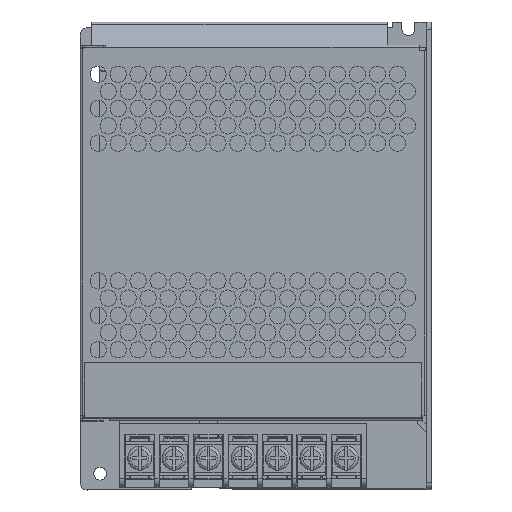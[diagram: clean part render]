
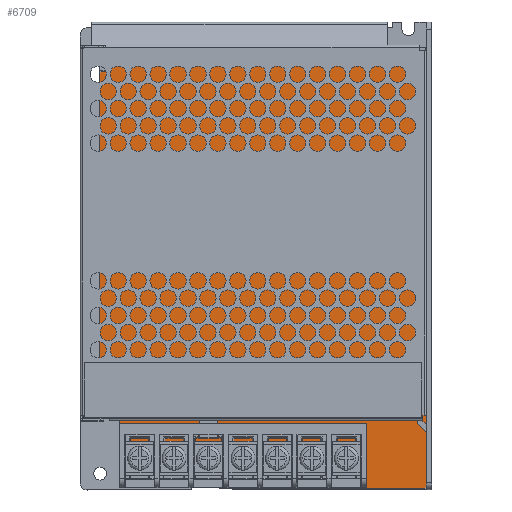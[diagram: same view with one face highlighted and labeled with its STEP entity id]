
A CAD part, top view. The second image highlights one B-rep face of the part: STEP entity #6709.
In plain terms, the highlighted planar face has unit normal (0, 0, 1).
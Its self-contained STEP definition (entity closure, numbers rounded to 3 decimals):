
#6252=DIRECTION('',(-0.857,-0.514,0.));
#6253=VECTOR('',#6252,2.915);
#6254=CARTESIAN_POINT('',(-20.35,-43.55,0.));
#6255=LINE('',#6254,#6253);
#6256=DIRECTION('',(-0.707,0.707,0.));
#6257=VECTOR('',#6256,0.707);
#6258=CARTESIAN_POINT('',(-59.5,-45.05,0.));
#6259=LINE('',#6258,#6257);
#6260=DIRECTION('',(0.707,0.707,0.));
#6261=VECTOR('',#6260,0.707);
#6262=CARTESIAN_POINT('',(-60.,12.05,0.));
#6263=LINE('',#6262,#6261);
#6264=DIRECTION('',(0.707,0.707,0.));
#6265=VECTOR('',#6264,0.707);
#6266=CARTESIAN_POINT('',(-55.4,39.15,0.));
#6267=LINE('',#6266,#6265);
#6268=DIRECTION('',(0.707,0.707,0.));
#6269=VECTOR('',#6268,0.636);
#6270=CARTESIAN_POINT('',(-27.25,44.6,0.));
#6271=LINE('',#6270,#6269);
#6272=DIRECTION('',(0.707,-0.707,0.));
#6273=VECTOR('',#6272,0.707);
#6274=CARTESIAN_POINT('',(54.3,45.05,0.));
#6275=LINE('',#6274,#6273);
#6276=DIRECTION('',(0.707,-0.707,0.));
#6277=VECTOR('',#6276,0.707);
#6278=CARTESIAN_POINT('',(59.5,43.05,0.));
#6279=LINE('',#6278,#6277);
#6280=DIRECTION('',(-0.707,-0.707,0.));
#6281=VECTOR('',#6280,0.707);
#6282=CARTESIAN_POINT('',(60.,-44.55,0.));
#6283=LINE('',#6282,#6281);
#6284=DIRECTION('',(-0.857,0.514,0.));
#6285=VECTOR('',#6284,2.915);
#6286=CARTESIAN_POINT('',(16.85,-45.05,0.));
#6287=LINE('',#6286,#6285);
#6292=DIRECTION('',(1.,0.,0.));
#6293=VECTOR('',#6292,34.7);
#6294=CARTESIAN_POINT('',(-20.35,-43.55,0.));
#6295=LINE('',#6294,#6293);
#6304=DIRECTION('',(1.,0.,0.));
#6305=VECTOR('',#6304,27.8);
#6306=CARTESIAN_POINT('',(16.85,-45.05,0.));
#6307=LINE('',#6306,#6305);
#6312=DIRECTION('',(0.,1.,0.));
#6313=VECTOR('',#6312,3.);
#6314=CARTESIAN_POINT('',(44.65,-45.05,0.));
#6315=LINE('',#6314,#6313);
#6320=DIRECTION('',(1.,0.,0.));
#6321=VECTOR('',#6320,7.7);
#6322=CARTESIAN_POINT('',(44.65,-42.05,0.));
#6323=LINE('',#6322,#6321);
#6328=DIRECTION('',(0.,-1.,0.));
#6329=VECTOR('',#6328,3.);
#6330=CARTESIAN_POINT('',(52.35,-42.05,0.));
#6331=LINE('',#6330,#6329);
#6336=DIRECTION('',(1.,0.,0.));
#6337=VECTOR('',#6336,7.15);
#6338=CARTESIAN_POINT('',(52.35,-45.05,0.));
#6339=LINE('',#6338,#6337);
#6348=DIRECTION('',(0.,1.,0.));
#6349=VECTOR('',#6348,87.1);
#6350=CARTESIAN_POINT('',(60.,-44.55,0.));
#6351=LINE('',#6350,#6349);
#6360=DIRECTION('',(-1.,0.,0.));
#6361=VECTOR('',#6360,4.7);
#6362=CARTESIAN_POINT('',(59.5,43.05,0.));
#6363=LINE('',#6362,#6361);
#6368=DIRECTION('',(0.,1.,0.));
#6369=VECTOR('',#6368,1.5);
#6370=CARTESIAN_POINT('',(54.8,43.05,0.));
#6371=LINE('',#6370,#6369);
#6380=DIRECTION('',(-1.,0.,0.));
#6381=VECTOR('',#6380,81.1);
#6382=CARTESIAN_POINT('',(54.3,45.05,0.));
#6383=LINE('',#6382,#6381);
#6392=DIRECTION('',(0.,-1.,0.));
#6393=VECTOR('',#6392,4.95);
#6394=CARTESIAN_POINT('',(-27.25,44.6,0.));
#6395=LINE('',#6394,#6393);
#6400=DIRECTION('',(-1.,0.,0.));
#6401=VECTOR('',#6400,27.65);
#6402=CARTESIAN_POINT('',(-27.25,39.65,0.));
#6403=LINE('',#6402,#6401);
#6412=DIRECTION('',(0.,-1.,0.));
#6413=VECTOR('',#6412,26.6);
#6414=CARTESIAN_POINT('',(-55.4,39.15,0.));
#6415=LINE('',#6414,#6413);
#6420=DIRECTION('',(-1.,0.,0.));
#6421=VECTOR('',#6420,4.1);
#6422=CARTESIAN_POINT('',(-55.4,12.55,0.));
#6423=LINE('',#6422,#6421);
#6432=DIRECTION('',(0.,-1.,0.));
#6433=VECTOR('',#6432,56.6);
#6434=CARTESIAN_POINT('',(-60.,12.05,0.));
#6435=LINE('',#6434,#6433);
#6444=DIRECTION('',(1.,0.,0.));
#6445=VECTOR('',#6444,36.65);
#6446=CARTESIAN_POINT('',(-59.5,-45.05,0.));
#6447=LINE('',#6446,#6445);
#6552=CARTESIAN_POINT('',(-20.35,-43.55,0.));
#6553=CARTESIAN_POINT('',(-22.85,-45.05,0.));
#6554=VERTEX_POINT('',#6552);
#6555=VERTEX_POINT('',#6553);
#6556=CARTESIAN_POINT('',(-59.5,-45.05,0.));
#6557=VERTEX_POINT('',#6556);
#6558=CARTESIAN_POINT('',(-60.,-44.55,0.));
#6559=VERTEX_POINT('',#6558);
#6560=CARTESIAN_POINT('',(-60.,12.05,0.));
#6561=VERTEX_POINT('',#6560);
#6562=CARTESIAN_POINT('',(-59.5,12.55,0.));
#6563=VERTEX_POINT('',#6562);
#6564=CARTESIAN_POINT('',(-55.4,12.55,0.));
#6565=VERTEX_POINT('',#6564);
#6566=CARTESIAN_POINT('',(-55.4,39.15,0.));
#6567=VERTEX_POINT('',#6566);
#6568=CARTESIAN_POINT('',(-54.9,39.65,0.));
#6569=VERTEX_POINT('',#6568);
#6570=CARTESIAN_POINT('',(-27.25,39.65,0.));
#6571=VERTEX_POINT('',#6570);
#6572=CARTESIAN_POINT('',(-27.25,44.6,0.));
#6573=VERTEX_POINT('',#6572);
#6574=CARTESIAN_POINT('',(-26.8,45.05,0.));
#6575=VERTEX_POINT('',#6574);
#6576=CARTESIAN_POINT('',(54.3,45.05,0.));
#6577=VERTEX_POINT('',#6576);
#6578=CARTESIAN_POINT('',(54.8,44.55,0.));
#6579=VERTEX_POINT('',#6578);
#6580=CARTESIAN_POINT('',(54.8,43.05,0.));
#6581=VERTEX_POINT('',#6580);
#6582=CARTESIAN_POINT('',(59.5,43.05,0.));
#6583=VERTEX_POINT('',#6582);
#6584=CARTESIAN_POINT('',(60.,42.55,0.));
#6585=VERTEX_POINT('',#6584);
#6586=CARTESIAN_POINT('',(60.,-44.55,0.));
#6587=VERTEX_POINT('',#6586);
#6588=CARTESIAN_POINT('',(59.5,-45.05,0.));
#6589=VERTEX_POINT('',#6588);
#6590=CARTESIAN_POINT('',(52.35,-45.05,0.));
#6591=VERTEX_POINT('',#6590);
#6592=CARTESIAN_POINT('',(52.35,-42.05,0.));
#6593=VERTEX_POINT('',#6592);
#6594=CARTESIAN_POINT('',(44.65,-42.05,0.));
#6595=VERTEX_POINT('',#6594);
#6596=CARTESIAN_POINT('',(44.65,-45.05,0.));
#6597=VERTEX_POINT('',#6596);
#6598=CARTESIAN_POINT('',(16.85,-45.05,0.));
#6599=VERTEX_POINT('',#6598);
#6600=CARTESIAN_POINT('',(14.35,-43.55,0.));
#6601=VERTEX_POINT('',#6600);
#6652=CARTESIAN_POINT('',(0.,0.,0.));
#6653=DIRECTION('',(0.,0.,1.));
#6654=DIRECTION('',(-1.,0.,0.));
#6655=AXIS2_PLACEMENT_3D('',#6652,#6653,#6654);
#6656=PLANE('',#6655);
#6658=ORIENTED_EDGE('',*,*,#6657,.T.);
#6660=ORIENTED_EDGE('',*,*,#6659,.F.);
#6662=ORIENTED_EDGE('',*,*,#6661,.T.);
#6664=ORIENTED_EDGE('',*,*,#6663,.F.);
#6666=ORIENTED_EDGE('',*,*,#6665,.T.);
#6668=ORIENTED_EDGE('',*,*,#6667,.F.);
#6670=ORIENTED_EDGE('',*,*,#6669,.F.);
#6672=ORIENTED_EDGE('',*,*,#6671,.T.);
#6674=ORIENTED_EDGE('',*,*,#6673,.F.);
#6676=ORIENTED_EDGE('',*,*,#6675,.F.);
#6678=ORIENTED_EDGE('',*,*,#6677,.T.);
#6680=ORIENTED_EDGE('',*,*,#6679,.F.);
#6682=ORIENTED_EDGE('',*,*,#6681,.T.);
#6684=ORIENTED_EDGE('',*,*,#6683,.F.);
#6686=ORIENTED_EDGE('',*,*,#6685,.F.);
#6688=ORIENTED_EDGE('',*,*,#6687,.T.);
#6690=ORIENTED_EDGE('',*,*,#6689,.F.);
#6692=ORIENTED_EDGE('',*,*,#6691,.T.);
#6694=ORIENTED_EDGE('',*,*,#6693,.F.);
#6696=ORIENTED_EDGE('',*,*,#6695,.F.);
#6698=ORIENTED_EDGE('',*,*,#6697,.F.);
#6700=ORIENTED_EDGE('',*,*,#6699,.F.);
#6702=ORIENTED_EDGE('',*,*,#6701,.F.);
#6704=ORIENTED_EDGE('',*,*,#6703,.T.);
#6706=ORIENTED_EDGE('',*,*,#6705,.F.);
#6707=EDGE_LOOP('',(#6658,#6660,#6662,#6664,#6666,#6668,#6670,#6672,#6674,#6676,
#6678,#6680,#6682,#6684,#6686,#6688,#6690,#6692,#6694,#6696,#6698,#6700,#6702,
#6704,#6706));
#6708=FACE_OUTER_BOUND('',#6707,.F.);
#6657=EDGE_CURVE('',#6554,#6555,#6255,.T.);
#6659=EDGE_CURVE('',#6557,#6555,#6447,.T.);
#6661=EDGE_CURVE('',#6557,#6559,#6259,.T.);
#6663=EDGE_CURVE('',#6561,#6559,#6435,.T.);
#6665=EDGE_CURVE('',#6561,#6563,#6263,.T.);
#6667=EDGE_CURVE('',#6565,#6563,#6423,.T.);
#6669=EDGE_CURVE('',#6567,#6565,#6415,.T.);
#6671=EDGE_CURVE('',#6567,#6569,#6267,.T.);
#6673=EDGE_CURVE('',#6571,#6569,#6403,.T.);
#6675=EDGE_CURVE('',#6573,#6571,#6395,.T.);
#6677=EDGE_CURVE('',#6573,#6575,#6271,.T.);
#6679=EDGE_CURVE('',#6577,#6575,#6383,.T.);
#6681=EDGE_CURVE('',#6577,#6579,#6275,.T.);
#6683=EDGE_CURVE('',#6581,#6579,#6371,.T.);
#6685=EDGE_CURVE('',#6583,#6581,#6363,.T.);
#6687=EDGE_CURVE('',#6583,#6585,#6279,.T.);
#6689=EDGE_CURVE('',#6587,#6585,#6351,.T.);
#6691=EDGE_CURVE('',#6587,#6589,#6283,.T.);
#6693=EDGE_CURVE('',#6591,#6589,#6339,.T.);
#6695=EDGE_CURVE('',#6593,#6591,#6331,.T.);
#6697=EDGE_CURVE('',#6595,#6593,#6323,.T.);
#6699=EDGE_CURVE('',#6597,#6595,#6315,.T.);
#6701=EDGE_CURVE('',#6599,#6597,#6307,.T.);
#6703=EDGE_CURVE('',#6599,#6601,#6287,.T.);
#6705=EDGE_CURVE('',#6554,#6601,#6295,.T.);
#6709=ADVANCED_FACE('',(#6708),#6656,.T.);
